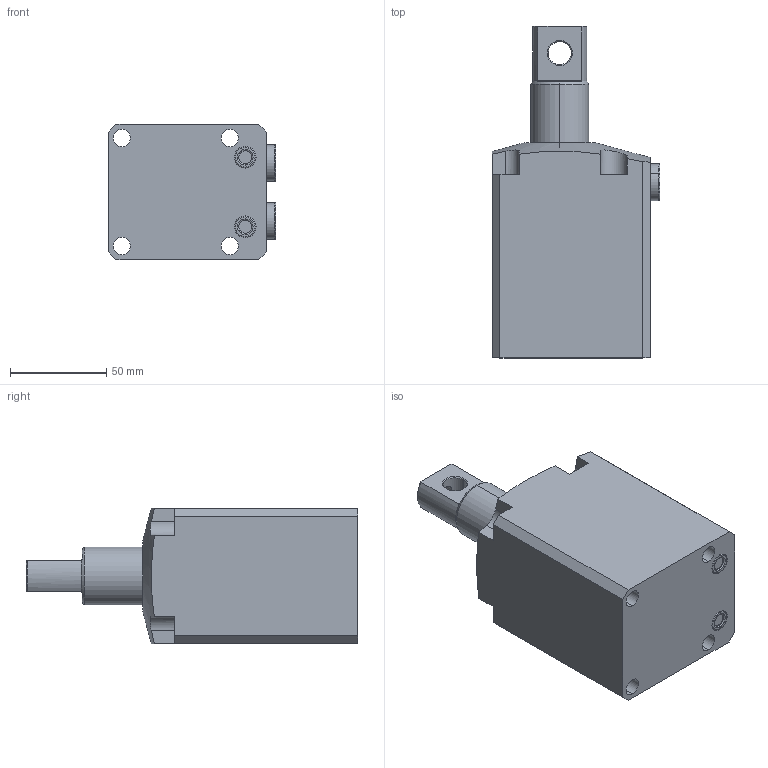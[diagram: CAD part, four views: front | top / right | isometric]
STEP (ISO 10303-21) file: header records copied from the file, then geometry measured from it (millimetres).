
FILE_DESCRIPTION(/* description */ (''),/* implementation_level */ '2;1');
FILE_NAME(/* name */ 'BRC10-P.stp',/* time_stamp */ '2025-01-05T09:07:14+08:00',/* author */ (''),/* organization */ (''),/* preprocessor_version */ 'ST-DEVELOPER v16.7',/* originating_system */ 'SIEMENS PLM Software NX 12.0',/* authorisation */ '');
FILE_SCHEMA (('AUTOMOTIVE_DESIGN { 1 0 10303 214 3 1 1 1 }'));
Length unit declared in the file: millimetre
Products named in the file (4): BRC10-P-03; BRC10-P-02; BRC10-P-01; BRC10-RP_stp
Assembly tree (4 placements, depth 2):
  BRC10-RP_stp
    BRC10-P-01
    BRC10-P-02
    BRC10-P-03  x2
Bounding box: 86.8 x 172 x 70 mm (x, y, z)
Volume: 601101.4 mm3; surface area: 67555.3 mm2
Topology: 6 solids, 6 shells, 148 faces, 341 edges, 214 vertices
Faces by surface type: plane 57, cylinder 51, torus 20, cone 20
Full cylindrical faces by diameter (mm): 13 x2
Entity records: 3909 total; most frequent: CARTESIAN_POINT 845, DIRECTION 649, ORIENTED_EDGE 586, EDGE_CURVE 293, AXIS2_PLACEMENT_3D 262, VERTEX_POINT 186, EDGE_LOOP 151, CIRCLE 131
